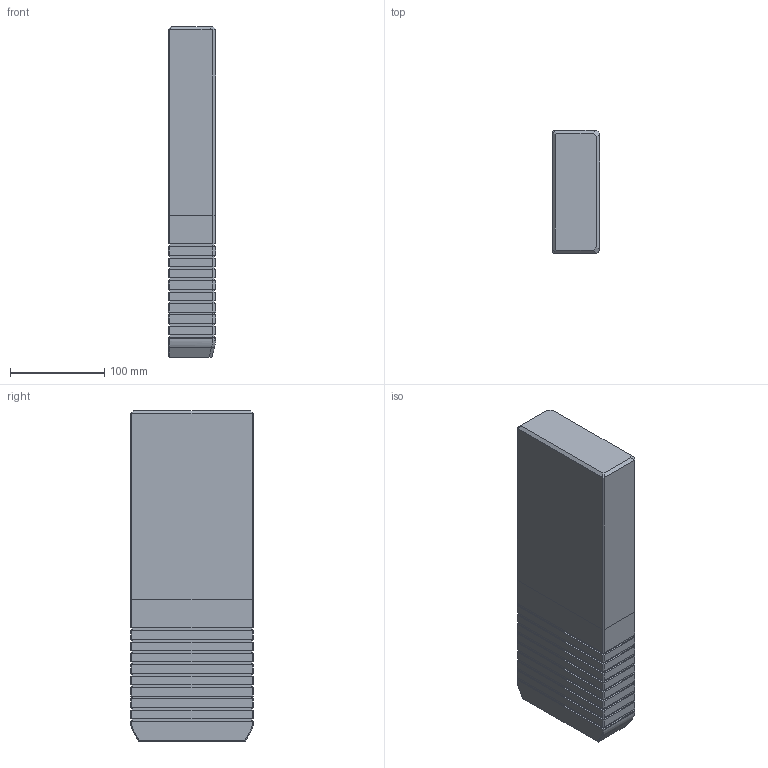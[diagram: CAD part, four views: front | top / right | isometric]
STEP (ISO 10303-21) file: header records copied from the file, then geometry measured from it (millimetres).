
FILE_DESCRIPTION((''),'2;1');
FILE_NAME('','2010-08-30T13:17:31+09:00',('misumi'),(''),'M/STEP i/f 1R2-14','CADmeister v5.1','');
FILE_SCHEMA(('AUTOMOTIVE_DESIGN'));
Length unit declared in the file: millimetre
Products named in the file (1): GWZ130-350
Bounding box: 50 x 130 x 350 mm (x, y, z)
Volume: 2241888.7 mm3; surface area: 145554.1 mm2
Topology: 1 solids, 1 shells, 210 faces, 545 edges, 356 vertices
Faces by surface type: plane 197, bspline 6, cylinder 5, cone 2
Entity records: 6635 total; most frequent: CARTESIAN_POINT 1454, ORIENTED_EDGE 1090, DIRECTION 945, EDGE_CURVE 545, LINE 519, VECTOR 519, VERTEX_POINT 356, EDGE_LOOP 229
